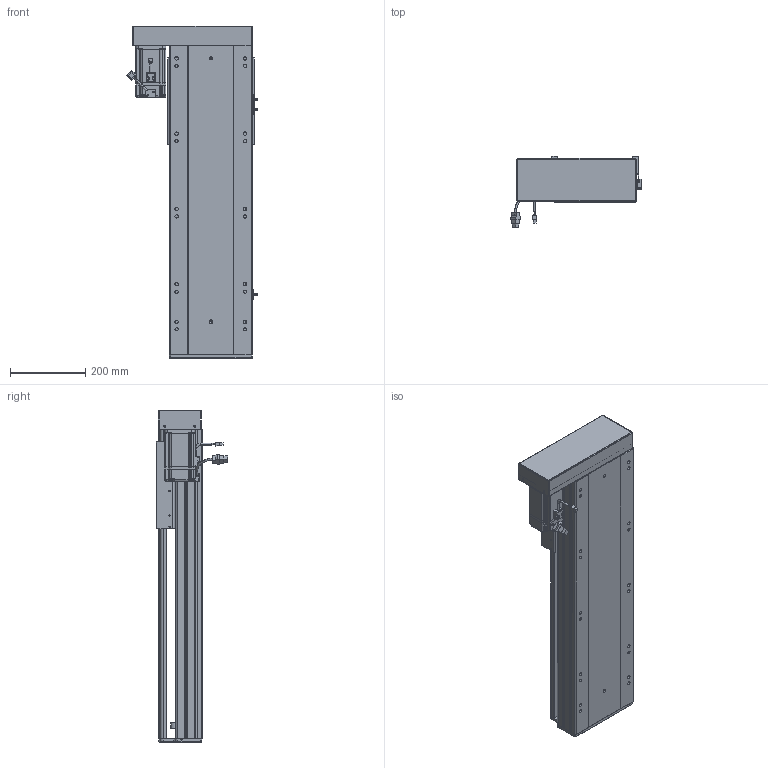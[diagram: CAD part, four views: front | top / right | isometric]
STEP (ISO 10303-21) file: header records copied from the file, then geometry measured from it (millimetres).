
FILE_DESCRIPTION (( 'STEP AP203' ), '1' );
FILE_NAME ('RY220-L2525-300-LK.SLDASM_500.step', '2022-07-04T01:46:31', ( '' ), ( '' ), 'SwSTEP 2.0', 'SolidWorks 2016', '' );
FILE_SCHEMA (( 'CONFIG_CONTROL_DESIGN' ));
Length unit declared in the file: millimetre
Products named in the file (12): RY220-L2525-300-LK.SLDASM_500; RY220蛌殏菁釱-300_500; RY220-300-蛌殏奻裔啣_500; RY220-俋离672覜茼んえ; RY220綴裔啣; 覜茼ん672; 怢湛750W_ECMA-CX0807ES; RY220酘衵殏萇儂欶; 滅袉蝶18-15; 滅袉蝶18-10; RY220左右折电机安装板; RY220半封闭25-32螺母铝滑块
Assembly tree (15 placements, depth 2):
  RY220-L2525-300-LK.SLDASM_500
    RY220蛌殏菁釱-300_500
    RY220-300-蛌殏奻裔啣_500
    怢湛750W_ECMA-CX0807ES
    滅袉蝶18-10  x2
    RY220-俋离672覜茼んえ
    覜茼ん672  x3
    RY220綴裔啣
    RY220半封闭25-32螺母铝滑块
    滅袉蝶18-15  x2
    RY220左右折电机安装板
    RY220酘衵殏萇儂欶
Bounding box: 347.44 x 189.27 x 882 mm (x, y, z)
Volume: 8323743.9 mm3; surface area: 2322762.3 mm2
Topology: 16 solids, 16 shells, 2047 faces, 5644 edges, 3591 vertices
Faces by surface type: cylinder 899, plane 896, cone 182, bspline 44, sphere 16, torus 10
Entity records: 67565 total; most frequent: CARTESIAN_POINT 19773, ORIENTED_EDGE 9952, DIRECTION 9252, EDGE_CURVE 4976, VERTEX_POINT 3247, AXIS2_PLACEMENT_3D 3217, VECTOR 2818, LINE 2818
